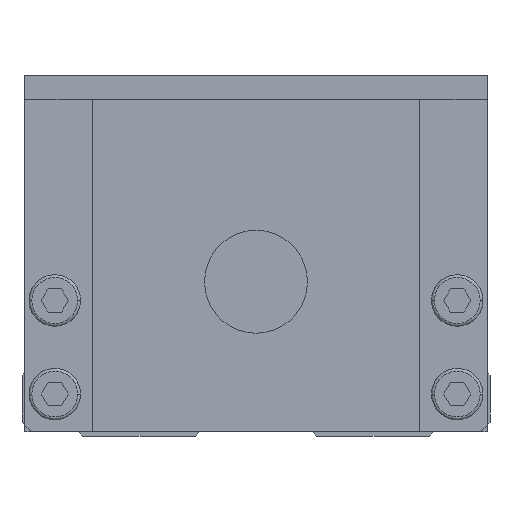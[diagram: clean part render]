
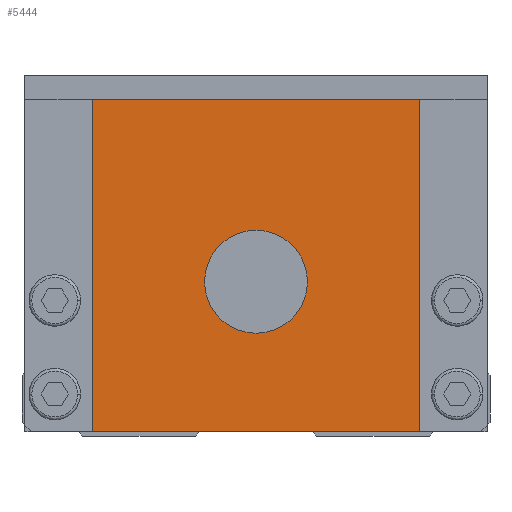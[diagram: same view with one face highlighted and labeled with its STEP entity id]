
A CAD part, front view. The second image highlights one B-rep face of the part: STEP entity #5444.
In plain terms, the highlighted planar face has unit normal (0, -1, 0).
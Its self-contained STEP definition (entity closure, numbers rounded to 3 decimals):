
#3548=VERTEX_POINT('',#10404);
#3588=EDGE_CURVE('',#8098,#3548,#10448,.T.);
#4416=VERTEX_POINT('',#11366);
#4690=EDGE_CURVE('',#10136,#4416,#11657,.T.);
#5444=ADVANCED_FACE('',(#12498,#12499),#12500,.F.);
#6160=VERTEX_POINT('',#13304);
#7664=EDGE_CURVE('',#9170,#4416,#14963,.T.);
#8098=VERTEX_POINT('',#15447);
#8396=EDGE_CURVE('',#3548,#8098,#15779,.T.);
#9170=VERTEX_POINT('',#16646);
#9562=EDGE_CURVE('',#10136,#6160,#17065,.T.);
#9920=EDGE_CURVE('',#6160,#9170,#17469,.T.);
#10136=VERTEX_POINT('',#17715);
#10404=CARTESIAN_POINT('',(5.5,0.0,16.5));
#10448=CIRCLE('',#18091,5.5);
#11366=CARTESIAN_POINT('',(-17.5,0.0,0.5));
#11657=LINE('',#19770,#19771);
#12498=FACE_BOUND('',#21001,.T.);
#12499=FACE_OUTER_BOUND('',#21002,.T.);
#12500=PLANE('',#21003);
#13304=CARTESIAN_POINT('',(17.5,0.0,36.0));
#14963=LINE('',#24580,#24581);
#15447=CARTESIAN_POINT('',(-5.5,0.0,16.5));
#15779=CIRCLE('',#25825,5.5);
#16646=CARTESIAN_POINT('',(17.5,0.0,0.5));
#17065=LINE('',#27632,#27633);
#17469=LINE('',#28289,#28290);
#17715=CARTESIAN_POINT('',(-17.5,0.0,36.0));
#18091=AXIS2_PLACEMENT_3D('',#29078,#29079,#29080);
#19770=CARTESIAN_POINT('',(-17.5,0.0,18.25));
#19771=VECTOR('',#30376,1.0);
#21001=EDGE_LOOP('',(#31331,#31332));
#21002=EDGE_LOOP('',(#31333,#31334,#31335,#31336));
#21003=AXIS2_PLACEMENT_3D('',#31337,#31338,#31339);
#24580=CARTESIAN_POINT('',(0.0,0.0,0.5));
#24581=VECTOR('',#34047,1.0);
#25825=AXIS2_PLACEMENT_3D('',#35045,#35046,#35047);
#27632=CARTESIAN_POINT('',(0.0,0.0,36.0));
#27633=VECTOR('',#36515,1.0);
#28289=CARTESIAN_POINT('',(17.5,0.0,18.25));
#28290=VECTOR('',#37002,1.0);
#29078=CARTESIAN_POINT('',(0.0,0.0,16.5));
#29079=DIRECTION('',(-0.0,1.0,0.0));
#29080=DIRECTION('',(1.0,0.0,0.0));
#30376=DIRECTION('',(0.0,0.0,-1.0));
#31331=ORIENTED_EDGE('',*,*,#8396,.T.);
#31332=ORIENTED_EDGE('',*,*,#3588,.T.);
#31333=ORIENTED_EDGE('',*,*,#4690,.T.);
#31334=ORIENTED_EDGE('',*,*,#7664,.F.);
#31335=ORIENTED_EDGE('',*,*,#9920,.F.);
#31336=ORIENTED_EDGE('',*,*,#9562,.F.);
#31337=CARTESIAN_POINT('',(0.0,0.0,18.25));
#31338=DIRECTION('',(0.0,1.0,0.0));
#31339=DIRECTION('',(0.0,0.0,1.0));
#34047=DIRECTION('',(-1.0,0.0,0.0));
#35045=CARTESIAN_POINT('',(0.0,0.0,16.5));
#35046=DIRECTION('',(-0.0,1.0,0.0));
#35047=DIRECTION('',(1.0,0.0,0.0));
#36515=DIRECTION('',(1.0,0.0,0.0));
#37002=DIRECTION('',(0.0,0.0,-1.0));
